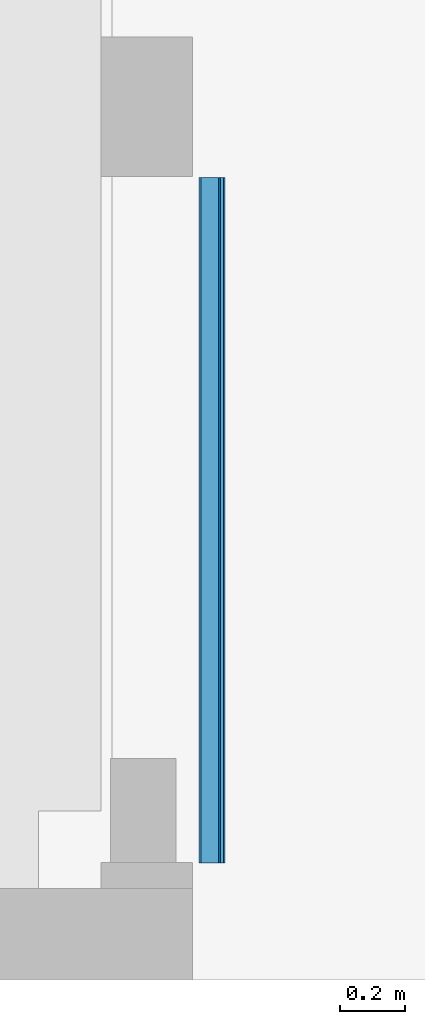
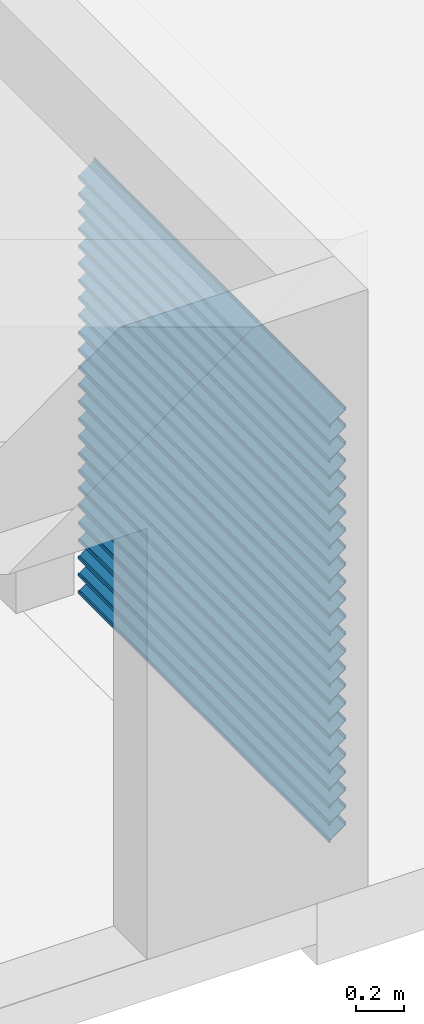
# One storey, part 4 of 22: 1 wall.
"""IFC2X3 building model written with IfcOpenShell, lengths in millimetres."""

from ifc_helpers import new_model, entity, si_unit, converted_unit, derived_unit, direction, frame, origin, place, context, subcontext, project, spatial, faceted_brep, material, type_object, element, save


model = new_model("IFC2X3")

# Units and contexts
model_context = context("Model", 3, precision=0.01, world=origin(), true_north=direction((6.123031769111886e-17, 1.0)))
body_context = subcontext(model_context, "Body", "Model", "MODEL_VIEW")
ifc_project = project(units=[si_unit("LENGTHUNIT", "METRE", prefix="MILLI"), si_unit("AREAUNIT", "SQUARE_METRE"), si_unit("VOLUMEUNIT", "CUBIC_METRE"), converted_unit("PLANEANGLEUNIT", "DEGREE", entity("IfcRatioMeasure", 0.017453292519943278), si_unit("PLANEANGLEUNIT", "RADIAN"), dimensions=[0, 0, 0, 0, 0, 0, 0]), si_unit("MASSUNIT", "GRAM", prefix="KILO"), derived_unit("MASSDENSITYUNIT", [(si_unit("MASSUNIT", "GRAM", prefix="KILO"), 1), (si_unit("LENGTHUNIT", "METRE"), -3)]), derived_unit("MOMENTOFINERTIAUNIT", [(si_unit("LENGTHUNIT", "METRE"), 4)]), si_unit("TIMEUNIT", "SECOND"), si_unit("FREQUENCYUNIT", "HERTZ"), si_unit("THERMODYNAMICTEMPERATUREUNIT", "DEGREE_CELSIUS"), derived_unit("THERMALTRANSMITTANCEUNIT", [(si_unit("MASSUNIT", "GRAM", prefix="KILO"), 1), (si_unit("THERMODYNAMICTEMPERATUREUNIT", "KELVIN"), -1), (si_unit("TIMEUNIT", "SECOND"), -3)]), derived_unit("VOLUMETRICFLOWRATEUNIT", [(si_unit("LENGTHUNIT", "METRE"), 3), (si_unit("TIMEUNIT", "SECOND"), -1)]), derived_unit("MASSFLOWRATEUNIT", [(si_unit("MASSUNIT", "GRAM", prefix="KILO"), 1), (si_unit("TIMEUNIT", "SECOND"), -1)]), derived_unit("ROTATIONALFREQUENCYUNIT", [(si_unit("TIMEUNIT", "SECOND"), -1)]), si_unit("ELECTRICCURRENTUNIT", "AMPERE"), si_unit("ELECTRICVOLTAGEUNIT", "VOLT"), si_unit("POWERUNIT", "WATT"), si_unit("FORCEUNIT", "NEWTON", prefix="KILO"), si_unit("ILLUMINANCEUNIT", "LUX"), si_unit("LUMINOUSFLUXUNIT", "LUMEN"), si_unit("LUMINOUSINTENSITYUNIT", "CANDELA"), derived_unit("USERDEFINED", [(si_unit("MASSUNIT", "GRAM", prefix="KILO"), -1), (si_unit("LENGTHUNIT", "METRE"), -2), (si_unit("TIMEUNIT", "SECOND"), 3), (si_unit("LUMINOUSFLUXUNIT", "LUMEN"), 1)]), derived_unit("SOUNDPOWERUNIT", [(si_unit("MASSUNIT", "GRAM", prefix="KILO"), 1), (si_unit("LENGTHUNIT", "METRE"), 2), (si_unit("TIMEUNIT", "SECOND"), -3)]), derived_unit("SOUNDPRESSUREUNIT", [(si_unit("MASSUNIT", "GRAM", prefix="KILO"), 1), (si_unit("LENGTHUNIT", "METRE"), -1), (si_unit("TIMEUNIT", "SECOND"), -2)]), derived_unit("LINEARVELOCITYUNIT", [(si_unit("LENGTHUNIT", "METRE"), 1), (si_unit("TIMEUNIT", "SECOND"), -1)]), si_unit("PRESSUREUNIT", "PASCAL"), derived_unit("USERDEFINED", [(si_unit("LENGTHUNIT", "METRE"), -2), (si_unit("MASSUNIT", "GRAM", prefix="KILO"), 1), (si_unit("TIMEUNIT", "SECOND"), -2)]), derived_unit("LINEARFORCEUNIT", [(si_unit("MASSUNIT", "GRAM", prefix="KILO"), 1), (si_unit("LENGTHUNIT", "METRE"), 1), (si_unit("TIMEUNIT", "SECOND"), -2), (si_unit("LENGTHUNIT", "METRE"), -1)]), derived_unit("PLANARFORCEUNIT", [(si_unit("MASSUNIT", "GRAM", prefix="KILO"), 1), (si_unit("LENGTHUNIT", "METRE"), 1), (si_unit("TIMEUNIT", "SECOND"), -2), (si_unit("LENGTHUNIT", "METRE"), -2)])], contexts=[model_context])

# Site, building, storey
site_placement = place(None, origin())
site = spatial("IfcSite", under=ifc_project, at=site_placement, Name="Default", CompositionType="ELEMENT")
building_placement = place(site_placement, origin())
building = spatial("IfcBuilding", under=site, at=building_placement, CompositionType="ELEMENT")
storey_placement = place(building_placement, frame((0.0, 0.0, 3300.0)))
storey = spatial("IfcBuildingStorey", under=building, at=storey_placement, Name="Level 2", CompositionType="ELEMENT", Elevation=3299.99999999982)

# Wall
ifc_material = material(Name="Default Wall")
wall_type = type_object("IfcWallType", Name="Curtain Wall:My Curtain Wall:My Curtain Wall : Curtain Wall:My Curtain Wall", PredefinedType="NOTDEFINED", material=ifc_material)
wall_placement = place(storey_placement, frame((5953.369379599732, -3718.2066840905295, 0.0), z_axis=(0.0, 0.0, 1.0), x_axis=(0.0, 1.0, 0.0)))
element("IfcWall", 1, at=wall_placement, inside=storey, type_object=wall_type, material=ifc_material, Name="Curtain Wall:My Curtain Wall:My Curtain Wall : Curtain Wall:My Curtain Wall:My Curtain Wall:My Curtain Wall : Curtain Wall:My Curtain Wall : Curtain Wall:My Curtain Wall:My Curtain Wall : Curtain Wall:My Curtain Wall", ObjectType="Curtain Wall:My Curtain Wall:My Curtain Wall : Curtain Wall:My Curtain Wall:My Curtain Wall:My Curtain Wall : Curtain Wall:My Curtain Wall : Curtain Wall:My Curtain Wall:My Curtain Wall : Curtain Wall:My Curtain Wall", context=body_context, shape_type="Brep", body=[
    faceted_brep([(2100.0, -75.0, 2111.666666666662), (2100.0, -80.0, 2111.666666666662), (2100.0, -80.0, 2095.402073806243), (2100.0, -6.518628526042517, 2041.7067338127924), (2100.0, -6.518628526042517, 2031.6666666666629), (2100.0, 0.0, 2031.6666666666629), (2100.0, 0.0, 2046.6666666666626), (2100.0, -6.575653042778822, 2046.6666666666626), (2100.0, -75.0, 2096.666666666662), (0.0, -75.0, 2111.666666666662), (0.0, -75.0, 2096.666666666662), (0.0, -6.575653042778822, 2046.6666666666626), (0.0, 0.0, 2046.6666666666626), (0.0, 0.0, 2031.6666666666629), (0.0, -6.518628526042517, 2031.6666666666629), (0.0, -6.518628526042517, 2041.7067338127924), (0.0, -80.0, 2095.402073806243), (0.0, -80.0, 2111.666666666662)], [[[0, 1, 2, 3, 4, 5, 6, 7, 8]], [[9, 10, 11, 12, 13, 14, 15, 16, 17]], [[1, 0, 9, 17]], [[2, 1, 17, 16]], [[3, 2, 16, 15]], [[4, 3, 15, 14]], [[5, 4, 14, 13]], [[6, 5, 13, 12]], [[7, 6, 12, 11]], [[8, 7, 11, 10]], [[0, 8, 10, 9]]]),
    faceted_brep([(2100.0, -75.0, 2023.3333333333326), (2100.0, -80.0, 2023.3333333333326), (2100.0, -80.0, 2007.0687404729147), (2100.0, -6.518628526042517, 1953.373400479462), (2100.0, -6.518628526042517, 1943.3333333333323), (2100.0, 0.0, 1943.3333333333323), (2100.0, 0.0, 1958.3333333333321), (2100.0, -6.575653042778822, 1958.3333333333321), (2100.0, -75.0, 2008.3333333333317), (0.0, -75.0, 2023.3333333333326), (0.0, -75.0, 2008.3333333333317), (0.0, -6.575653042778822, 1958.3333333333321), (0.0, 0.0, 1958.3333333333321), (0.0, 0.0, 1943.3333333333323), (0.0, -6.518628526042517, 1943.3333333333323), (0.0, -6.518628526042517, 1953.373400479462), (0.0, -80.0, 2007.0687404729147), (0.0, -80.0, 2023.3333333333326)], [[[0, 1, 2, 3, 4, 5, 6, 7, 8]], [[9, 10, 11, 12, 13, 14, 15, 16, 17]], [[1, 0, 9, 17]], [[2, 1, 17, 16]], [[3, 2, 16, 15]], [[4, 3, 15, 14]], [[5, 4, 14, 13]], [[6, 5, 13, 12]], [[7, 6, 12, 11]], [[8, 7, 11, 10]], [[0, 8, 10, 9]]]),
    faceted_brep([(2100.0, -75.0, 1935.0), (2100.0, -80.0, 1935.0), (2100.0, -80.0, 1918.735407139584), (2100.0, -6.518628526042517, 1865.0400671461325), (2100.0, -6.518628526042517, 1855.0), (2100.0, 0.0, 1855.0), (2100.0, 0.0, 1870.0), (2100.0, -6.575653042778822, 1870.0), (2100.0, -75.0, 1920.0), (0.0, -75.0, 1935.0), (0.0, -75.0, 1920.0), (0.0, -6.575653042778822, 1870.0), (0.0, 0.0, 1870.0), (0.0, 0.0, 1855.0), (0.0, -6.518628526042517, 1855.0), (0.0, -6.518628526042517, 1865.0400671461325), (0.0, -80.0, 1918.735407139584), (0.0, -80.0, 1935.0)], [[[0, 1, 2, 3, 4, 5, 6, 7, 8]], [[9, 10, 11, 12, 13, 14, 15, 16, 17]], [[1, 0, 9, 17]], [[2, 1, 17, 16]], [[3, 2, 16, 15]], [[4, 3, 15, 14]], [[5, 4, 14, 13]], [[6, 5, 13, 12]], [[7, 6, 12, 11]], [[8, 7, 11, 10]], [[0, 8, 10, 9]]]),
    faceted_brep([(2100.0, -75.0, 1846.6666666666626), (2100.0, -80.0, 1846.6666666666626), (2100.0, -80.0, 1830.4020738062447), (2100.0, -6.518628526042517, 1776.7067338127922), (2100.0, -6.518628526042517, 1766.6666666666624), (2100.0, 0.0, 1766.6666666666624), (2100.0, 0.0, 1781.6666666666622), (2100.0, -6.575653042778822, 1781.6666666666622), (2100.0, -75.0, 1831.6666666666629), (0.0, -75.0, 1846.6666666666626), (0.0, -75.0, 1831.6666666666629), (0.0, -6.575653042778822, 1781.6666666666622), (0.0, 0.0, 1781.6666666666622), (0.0, 0.0, 1766.6666666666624), (0.0, -6.518628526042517, 1766.6666666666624), (0.0, -6.518628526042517, 1776.7067338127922), (0.0, -80.0, 1830.4020738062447), (0.0, -80.0, 1846.6666666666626)], [[[0, 1, 2, 3, 4, 5, 6, 7, 8]], [[9, 10, 11, 12, 13, 14, 15, 16, 17]], [[1, 0, 9, 17]], [[2, 1, 17, 16]], [[3, 2, 16, 15]], [[4, 3, 15, 14]], [[5, 4, 14, 13]], [[6, 5, 13, 12]], [[7, 6, 12, 11]], [[8, 7, 11, 10]], [[0, 8, 10, 9]]]),
    faceted_brep([(2100.0, -75.0, 1758.3333333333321), (2100.0, -80.0, 1758.3333333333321), (2100.0, -80.0, 1742.0687404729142), (2100.0, -6.518628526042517, 1688.3734004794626), (2100.0, -6.518628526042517, 1678.333333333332), (2100.0, 0.0, 1678.333333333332), (2100.0, 0.0, 1693.3333333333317), (2100.0, -6.575653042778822, 1693.3333333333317), (2100.0, -75.0, 1743.3333333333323), (0.0, -75.0, 1758.3333333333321), (0.0, -75.0, 1743.3333333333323), (0.0, -6.575653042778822, 1693.3333333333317), (0.0, 0.0, 1693.3333333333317), (0.0, 0.0, 1678.333333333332), (0.0, -6.518628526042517, 1678.333333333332), (0.0, -6.518628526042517, 1688.3734004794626), (0.0, -80.0, 1742.0687404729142), (0.0, -80.0, 1758.3333333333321)], [[[0, 1, 2, 3, 4, 5, 6, 7, 8]], [[9, 10, 11, 12, 13, 14, 15, 16, 17]], [[1, 0, 9, 17]], [[2, 1, 17, 16]], [[3, 2, 16, 15]], [[4, 3, 15, 14]], [[5, 4, 14, 13]], [[6, 5, 13, 12]], [[7, 6, 12, 11]], [[8, 7, 11, 10]], [[0, 8, 10, 9]]]),
    faceted_brep([(2100.0, -75.0, 1670.0), (2100.0, -80.0, 1670.0), (2100.0, -80.0, 1653.7354071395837), (2100.0, -6.518628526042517, 1600.040067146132), (2100.0, -6.518628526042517, 1590.0), (2100.0, 0.0, 1590.0), (2100.0, 0.0, 1605.0), (2100.0, -6.575653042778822, 1605.0), (2100.0, -75.0, 1655.0), (0.0, -75.0, 1670.0), (0.0, -75.0, 1655.0), (0.0, -6.575653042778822, 1605.0), (0.0, 0.0, 1605.0), (0.0, 0.0, 1590.0), (0.0, -6.518628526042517, 1590.0), (0.0, -6.518628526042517, 1600.040067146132), (0.0, -80.0, 1653.7354071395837), (0.0, -80.0, 1670.0)], [[[0, 1, 2, 3, 4, 5, 6, 7, 8]], [[9, 10, 11, 12, 13, 14, 15, 16, 17]], [[1, 0, 9, 17]], [[2, 1, 17, 16]], [[3, 2, 16, 15]], [[4, 3, 15, 14]], [[5, 4, 14, 13]], [[6, 5, 13, 12]], [[7, 6, 12, 11]], [[8, 7, 11, 10]], [[0, 8, 10, 9]]]),
    faceted_brep([(2100.0, -75.0, 1581.6666666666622), (2100.0, -80.0, 1581.6666666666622), (2100.0, -80.0, 1565.4020738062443), (2100.0, -6.518628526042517, 1511.706733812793), (2100.0, -6.518628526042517, 1501.666666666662), (2100.0, 0.0, 1501.666666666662), (2100.0, 0.0, 1516.6666666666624), (2100.0, -6.575653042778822, 1516.6666666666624), (2100.0, -75.0, 1566.6666666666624), (0.0, -75.0, 1581.6666666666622), (0.0, -75.0, 1566.6666666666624), (0.0, -6.575653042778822, 1516.6666666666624), (0.0, 0.0, 1516.6666666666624), (0.0, 0.0, 1501.666666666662), (0.0, -6.518628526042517, 1501.666666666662), (0.0, -6.518628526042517, 1511.706733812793), (0.0, -80.0, 1565.4020738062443), (0.0, -80.0, 1581.6666666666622)], [[[0, 1, 2, 3, 4, 5, 6, 7, 8]], [[9, 10, 11, 12, 13, 14, 15, 16, 17]], [[1, 0, 9, 17]], [[2, 1, 17, 16]], [[3, 2, 16, 15]], [[4, 3, 15, 14]], [[5, 4, 14, 13]], [[6, 5, 13, 12]], [[7, 6, 12, 11]], [[8, 7, 11, 10]], [[0, 8, 10, 9]]]),
    faceted_brep([(2100.0, -75.0, 1493.3333333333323), (2100.0, -80.0, 1493.3333333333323), (2100.0, -80.0, 1477.0687404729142), (2100.0, -6.518628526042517, 1423.3734004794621), (2100.0, -6.518628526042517, 1413.3333333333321), (2100.0, 0.0, 1413.3333333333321), (2100.0, 0.0, 1428.333333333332), (2100.0, -6.575653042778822, 1428.333333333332), (2100.0, -75.0, 1478.333333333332), (0.0, -75.0, 1493.3333333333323), (0.0, -75.0, 1478.333333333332), (0.0, -6.575653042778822, 1428.333333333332), (0.0, 0.0, 1428.333333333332), (0.0, 0.0, 1413.3333333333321), (0.0, -6.518628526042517, 1413.3333333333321), (0.0, -6.518628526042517, 1423.3734004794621), (0.0, -80.0, 1477.0687404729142), (0.0, -80.0, 1493.3333333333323)], [[[0, 1, 2, 3, 4, 5, 6, 7, 8]], [[9, 10, 11, 12, 13, 14, 15, 16, 17]], [[1, 0, 9, 17]], [[2, 1, 17, 16]], [[3, 2, 16, 15]], [[4, 3, 15, 14]], [[5, 4, 14, 13]], [[6, 5, 13, 12]], [[7, 6, 12, 11]], [[8, 7, 11, 10]], [[0, 8, 10, 9]]]),
    faceted_brep([(2100.0, -75.0, 1405.0), (2100.0, -80.0, 1405.0), (2100.0, -80.0, 1388.7354071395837), (2100.0, -6.518628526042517, 1335.040067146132), (2100.0, -6.518628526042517, 1325.0), (2100.0, 0.0, 1325.0), (2100.0, 0.0, 1340.0), (2100.0, -6.575653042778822, 1340.0), (2100.0, -75.0, 1390.0), (0.0, -75.0, 1405.0), (0.0, -75.0, 1390.0), (0.0, -6.575653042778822, 1340.0), (0.0, 0.0, 1340.0), (0.0, 0.0, 1325.0), (0.0, -6.518628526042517, 1325.0), (0.0, -6.518628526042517, 1335.040067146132), (0.0, -80.0, 1388.7354071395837), (0.0, -80.0, 1405.0)], [[[0, 1, 2, 3, 4, 5, 6, 7, 8]], [[9, 10, 11, 12, 13, 14, 15, 16, 17]], [[1, 0, 9, 17]], [[2, 1, 17, 16]], [[3, 2, 16, 15]], [[4, 3, 15, 14]], [[5, 4, 14, 13]], [[6, 5, 13, 12]], [[7, 6, 12, 11]], [[8, 7, 11, 10]], [[0, 8, 10, 9]]]),
    faceted_brep([(2100.0, -75.0, 1316.6666666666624), (2100.0, -80.0, 1316.6666666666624), (2100.0, -80.0, 1300.4020738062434), (2100.0, -6.518628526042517, 1246.7067338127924), (2100.0, -6.518628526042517, 1236.6666666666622), (2100.0, 0.0, 1236.6666666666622), (2100.0, 0.0, 1251.6666666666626), (2100.0, -6.575653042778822, 1251.6666666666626), (2100.0, -75.0, 1301.6666666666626), (0.0, -75.0, 1316.6666666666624), (0.0, -75.0, 1301.6666666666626), (0.0, -6.575653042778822, 1251.6666666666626), (0.0, 0.0, 1251.6666666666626), (0.0, 0.0, 1236.6666666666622), (0.0, -6.518628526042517, 1236.6666666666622), (0.0, -6.518628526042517, 1246.7067338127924), (0.0, -80.0, 1300.4020738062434), (0.0, -80.0, 1316.6666666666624)], [[[0, 1, 2, 3, 4, 5, 6, 7, 8]], [[9, 10, 11, 12, 13, 14, 15, 16, 17]], [[1, 0, 9, 17]], [[2, 1, 17, 16]], [[3, 2, 16, 15]], [[4, 3, 15, 14]], [[5, 4, 14, 13]], [[6, 5, 13, 12]], [[7, 6, 12, 11]], [[8, 7, 11, 10]], [[0, 8, 10, 9]]]),
    faceted_brep([(2100.0, -75.0, 1228.333333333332), (2100.0, -80.0, 1228.333333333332), (2100.0, -80.0, 1212.068740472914), (2100.0, -6.518628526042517, 1158.3734004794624), (2100.0, -6.518628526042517, 1148.3333333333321), (2100.0, 0.0, 1148.3333333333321), (2100.0, 0.0, 1163.333333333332), (2100.0, -6.575653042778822, 1163.333333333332), (2100.0, -75.0, 1213.333333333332), (0.0, -75.0, 1228.333333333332), (0.0, -75.0, 1213.333333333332), (0.0, -6.575653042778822, 1163.333333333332), (0.0, 0.0, 1163.333333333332), (0.0, 0.0, 1148.3333333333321), (0.0, -6.518628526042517, 1148.3333333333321), (0.0, -6.518628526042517, 1158.3734004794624), (0.0, -80.0, 1212.068740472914), (0.0, -80.0, 1228.333333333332)], [[[0, 1, 2, 3, 4, 5, 6, 7, 8]], [[9, 10, 11, 12, 13, 14, 15, 16, 17]], [[1, 0, 9, 17]], [[2, 1, 17, 16]], [[3, 2, 16, 15]], [[4, 3, 15, 14]], [[5, 4, 14, 13]], [[6, 5, 13, 12]], [[7, 6, 12, 11]], [[8, 7, 11, 10]], [[0, 8, 10, 9]]]),
    faceted_brep([(2100.0, -75.0, 1140.0), (2100.0, -80.0, 1140.0), (2100.0, -80.0, 1123.735407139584), (2100.0, -6.518628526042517, 1070.0400671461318), (2100.0, -6.518628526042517, 1060.0), (2100.0, 0.0, 1060.0), (2100.0, 0.0, 1075.0), (2100.0, -6.575653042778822, 1075.0), (2100.0, -75.0, 1125.0), (0.0, -75.0, 1140.0), (0.0, -75.0, 1125.0), (0.0, -6.575653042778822, 1075.0), (0.0, 0.0, 1075.0), (0.0, 0.0, 1060.0), (0.0, -6.518628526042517, 1060.0), (0.0, -6.518628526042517, 1070.0400671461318), (0.0, -80.0, 1123.735407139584), (0.0, -80.0, 1140.0)], [[[0, 1, 2, 3, 4, 5, 6, 7, 8]], [[9, 10, 11, 12, 13, 14, 15, 16, 17]], [[1, 0, 9, 17]], [[2, 1, 17, 16]], [[3, 2, 16, 15]], [[4, 3, 15, 14]], [[5, 4, 14, 13]], [[6, 5, 13, 12]], [[7, 6, 12, 11]], [[8, 7, 11, 10]], [[0, 8, 10, 9]]]),
    faceted_brep([(2100.0, -75.0, 1051.6666666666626), (2100.0, -80.0, 1051.6666666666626), (2100.0, -80.0, 1035.4020738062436), (2100.0, -6.518628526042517, 981.7067338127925), (2100.0, -6.518628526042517, 971.6666666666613), (2100.0, 0.0, 971.6666666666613), (2100.0, 0.0, 986.6666666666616), (2100.0, -6.575653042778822, 986.6666666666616), (2100.0, -75.0, 1036.6666666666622), (0.0, -75.0, 1051.6666666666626), (0.0, -75.0, 1036.6666666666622), (0.0, -6.575653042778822, 986.6666666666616), (0.0, 0.0, 986.6666666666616), (0.0, 0.0, 971.6666666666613), (0.0, -6.518628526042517, 971.6666666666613), (0.0, -6.518628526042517, 981.7067338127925), (0.0, -80.0, 1035.4020738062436), (0.0, -80.0, 1051.6666666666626)], [[[0, 1, 2, 3, 4, 5, 6, 7, 8]], [[9, 10, 11, 12, 13, 14, 15, 16, 17]], [[1, 0, 9, 17]], [[2, 1, 17, 16]], [[3, 2, 16, 15]], [[4, 3, 15, 14]], [[5, 4, 14, 13]], [[6, 5, 13, 12]], [[7, 6, 12, 11]], [[8, 7, 11, 10]], [[0, 8, 10, 9]]]),
    faceted_brep([(2100.0, -75.0, 963.333333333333), (2100.0, -80.0, 963.333333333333), (2100.0, -80.0, 947.0687404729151), (2100.0, -6.518628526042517, 893.373400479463), (2100.0, -6.518628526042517, 883.3333333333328), (2100.0, 0.0, 883.3333333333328), (2100.0, 0.0, 898.3333333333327), (2100.0, -6.575653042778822, 898.3333333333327), (2100.0, -75.0, 948.3333333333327), (0.0, -75.0, 963.333333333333), (0.0, -75.0, 948.3333333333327), (0.0, -6.575653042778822, 898.3333333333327), (0.0, 0.0, 898.3333333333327), (0.0, 0.0, 883.3333333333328), (0.0, -6.518628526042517, 883.3333333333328), (0.0, -6.518628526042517, 893.373400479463), (0.0, -80.0, 947.0687404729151), (0.0, -80.0, 963.333333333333)], [[[0, 1, 2, 3, 4, 5, 6, 7, 8]], [[9, 10, 11, 12, 13, 14, 15, 16, 17]], [[1, 0, 9, 17]], [[2, 1, 17, 16]], [[3, 2, 16, 15]], [[4, 3, 15, 14]], [[5, 4, 14, 13]], [[6, 5, 13, 12]], [[7, 6, 12, 11]], [[8, 7, 11, 10]], [[0, 8, 10, 9]]]),
    faceted_brep([(2100.0, -75.0, 875.0), (2100.0, -80.0, 875.0), (2100.0, -80.0, 858.7354071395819), (2100.0, -6.518628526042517, 805.0400671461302), (2100.0, -6.518628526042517, 795.0), (2100.0, 0.0, 795.0), (2100.0, 0.0, 810.0), (2100.0, -6.575653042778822, 810.0), (2100.0, -75.0, 860.0), (0.0, -75.0, 875.0), (0.0, -75.0, 860.0), (0.0, -6.575653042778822, 810.0), (0.0, 0.0, 810.0), (0.0, 0.0, 795.0), (0.0, -6.518628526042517, 795.0), (0.0, -6.518628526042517, 805.0400671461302), (0.0, -80.0, 858.7354071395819), (0.0, -80.0, 875.0)], [[[0, 1, 2, 3, 4, 5, 6, 7, 8]], [[9, 10, 11, 12, 13, 14, 15, 16, 17]], [[1, 0, 9, 17]], [[2, 1, 17, 16]], [[3, 2, 16, 15]], [[4, 3, 15, 14]], [[5, 4, 14, 13]], [[6, 5, 13, 12]], [[7, 6, 12, 11]], [[8, 7, 11, 10]], [[0, 8, 10, 9]]]),
    faceted_brep([(2100.0, -75.0, 786.666666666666), (2100.0, -80.0, 786.666666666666), (2100.0, -80.0, 770.4020738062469), (2100.0, -6.518628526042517, 716.706733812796), (2100.0, -6.518628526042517, 706.6666666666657), (2100.0, 0.0, 706.6666666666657), (2100.0, 0.0, 721.6666666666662), (2100.0, -6.575653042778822, 721.6666666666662), (2100.0, -75.0, 771.6666666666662), (0.0, -75.0, 786.666666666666), (0.0, -75.0, 771.6666666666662), (0.0, -6.575653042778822, 721.6666666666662), (0.0, 0.0, 721.6666666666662), (0.0, 0.0, 706.6666666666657), (0.0, -6.518628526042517, 706.6666666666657), (0.0, -6.518628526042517, 716.706733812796), (0.0, -80.0, 770.4020738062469), (0.0, -80.0, 786.666666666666)], [[[0, 1, 2, 3, 4, 5, 6, 7, 8]], [[9, 10, 11, 12, 13, 14, 15, 16, 17]], [[1, 0, 9, 17]], [[2, 1, 17, 16]], [[3, 2, 16, 15]], [[4, 3, 15, 14]], [[5, 4, 14, 13]], [[6, 5, 13, 12]], [[7, 6, 12, 11]], [[8, 7, 11, 10]], [[0, 8, 10, 9]]]),
    faceted_brep([(2100.0, -75.0, 698.3333333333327), (2100.0, -80.0, 698.3333333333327), (2100.0, -80.0, 682.0687404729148), (2100.0, -6.518628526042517, 628.3734004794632), (2100.0, -6.518628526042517, 618.333333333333), (2100.0, 0.0, 618.333333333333), (2100.0, 0.0, 633.3333333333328), (2100.0, -6.575653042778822, 633.3333333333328), (2100.0, -75.0, 683.3333333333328), (0.0, -75.0, 698.3333333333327), (0.0, -75.0, 683.3333333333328), (0.0, -6.575653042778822, 633.3333333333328), (0.0, 0.0, 633.3333333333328), (0.0, 0.0, 618.333333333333), (0.0, -6.518628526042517, 618.333333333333), (0.0, -6.518628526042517, 628.3734004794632), (0.0, -80.0, 682.0687404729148), (0.0, -80.0, 698.3333333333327)], [[[0, 1, 2, 3, 4, 5, 6, 7, 8]], [[9, 10, 11, 12, 13, 14, 15, 16, 17]], [[1, 0, 9, 17]], [[2, 1, 17, 16]], [[3, 2, 16, 15]], [[4, 3, 15, 14]], [[5, 4, 14, 13]], [[6, 5, 13, 12]], [[7, 6, 12, 11]], [[8, 7, 11, 10]], [[0, 8, 10, 9]]]),
    faceted_brep([(2100.0, -75.0, 610.0), (2100.0, -80.0, 610.0), (2100.0, -80.0, 593.735407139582), (2100.0, -6.518628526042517, 540.0400671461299), (2100.0, -6.518628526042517, 530.0), (2100.0, 0.0, 530.0), (2100.0, 0.0, 545.0), (2100.0, -6.575653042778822, 545.0), (2100.0, -75.0, 595.0), (0.0, -75.0, 610.0), (0.0, -75.0, 595.0), (0.0, -6.575653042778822, 545.0), (0.0, 0.0, 545.0), (0.0, 0.0, 530.0), (0.0, -6.518628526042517, 530.0), (0.0, -6.518628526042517, 540.0400671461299), (0.0, -80.0, 593.735407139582), (0.0, -80.0, 610.0)], [[[0, 1, 2, 3, 4, 5, 6, 7, 8]], [[9, 10, 11, 12, 13, 14, 15, 16, 17]], [[1, 0, 9, 17]], [[2, 1, 17, 16]], [[3, 2, 16, 15]], [[4, 3, 15, 14]], [[5, 4, 14, 13]], [[6, 5, 13, 12]], [[7, 6, 12, 11]], [[8, 7, 11, 10]], [[0, 8, 10, 9]]]),
    faceted_brep([(2100.0, -75.0, 521.6666666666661), (2100.0, -80.0, 521.6666666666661), (2100.0, -80.0, 505.4020738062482), (2100.0, -6.518628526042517, 451.7067338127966), (2100.0, -6.518628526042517, 441.6666666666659), (2100.0, 0.0, 441.6666666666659), (2100.0, 0.0, 456.6666666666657), (2100.0, -6.575653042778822, 456.6666666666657), (2100.0, -75.0, 506.6666666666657), (0.0, -75.0, 521.6666666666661), (0.0, -75.0, 506.6666666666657), (0.0, -6.575653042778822, 456.6666666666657), (0.0, 0.0, 456.6666666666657), (0.0, 0.0, 441.6666666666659), (0.0, -6.518628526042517, 441.6666666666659), (0.0, -6.518628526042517, 451.7067338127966), (0.0, -80.0, 505.4020738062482), (0.0, -80.0, 521.6666666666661)], [[[0, 1, 2, 3, 4, 5, 6, 7, 8]], [[9, 10, 11, 12, 13, 14, 15, 16, 17]], [[1, 0, 9, 17]], [[2, 1, 17, 16]], [[3, 2, 16, 15]], [[4, 3, 15, 14]], [[5, 4, 14, 13]], [[6, 5, 13, 12]], [[7, 6, 12, 11]], [[8, 7, 11, 10]], [[0, 8, 10, 9]]]),
    faceted_brep([(2100.0, -75.0, 433.3333333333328), (2100.0, -80.0, 433.3333333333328), (2100.0, -80.0, 417.0687404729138), (2100.0, -6.518628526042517, 363.3734004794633), (2100.0, -6.518628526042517, 353.33333333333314), (2100.0, 0.0, 353.33333333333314), (2100.0, 0.0, 368.333333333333), (2100.0, -6.575653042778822, 368.333333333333), (2100.0, -75.0, 418.333333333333), (0.0, -75.0, 433.3333333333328), (0.0, -75.0, 418.333333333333), (0.0, -6.575653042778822, 368.333333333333), (0.0, 0.0, 368.333333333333), (0.0, 0.0, 353.33333333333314), (0.0, -6.518628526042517, 353.33333333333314), (0.0, -6.518628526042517, 363.3734004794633), (0.0, -80.0, 417.0687404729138), (0.0, -80.0, 433.3333333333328)], [[[0, 1, 2, 3, 4, 5, 6, 7, 8]], [[9, 10, 11, 12, 13, 14, 15, 16, 17]], [[1, 0, 9, 17]], [[2, 1, 17, 16]], [[3, 2, 16, 15]], [[4, 3, 15, 14]], [[5, 4, 14, 13]], [[6, 5, 13, 12]], [[7, 6, 12, 11]], [[8, 7, 11, 10]], [[0, 8, 10, 9]]]),
    faceted_brep([(2100.0, -75.0, 345.0), (2100.0, -80.0, 345.0), (2100.0, -80.0, 328.73540713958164), (2100.0, -6.518628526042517, 275.0400671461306), (2100.0, -6.518628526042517, 265.0), (2100.0, 0.0, 265.0), (2100.0, 0.0, 280.0), (2100.0, -6.575653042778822, 280.0), (2100.0, -75.0, 330.0), (0.0, -75.0, 345.0), (0.0, -75.0, 330.0), (0.0, -6.575653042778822, 280.0), (0.0, 0.0, 280.0), (0.0, 0.0, 265.0), (0.0, -6.518628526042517, 265.0), (0.0, -6.518628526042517, 275.0400671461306), (0.0, -80.0, 328.73540713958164), (0.0, -80.0, 345.0)], [[[0, 1, 2, 3, 4, 5, 6, 7, 8]], [[9, 10, 11, 12, 13, 14, 15, 16, 17]], [[1, 0, 9, 17]], [[2, 1, 17, 16]], [[3, 2, 16, 15]], [[4, 3, 15, 14]], [[5, 4, 14, 13]], [[6, 5, 13, 12]], [[7, 6, 12, 11]], [[8, 7, 11, 10]], [[0, 8, 10, 9]]]),
    faceted_brep([(2100.0, -75.0, 256.6666666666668), (2100.0, -80.0, 256.6666666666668), (2100.0, -80.0, 240.40207380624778), (2100.0, -6.518628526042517, 186.7067338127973), (2100.0, -6.518628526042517, 176.66666666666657), (2100.0, 0.0, 176.66666666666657), (2100.0, 0.0, 191.66666666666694), (2100.0, -6.575653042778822, 191.66666666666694), (2100.0, -75.0, 241.66666666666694), (0.0, -75.0, 256.6666666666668), (0.0, -75.0, 241.66666666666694), (0.0, -6.575653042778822, 191.66666666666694), (0.0, 0.0, 191.66666666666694), (0.0, 0.0, 176.66666666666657), (0.0, -6.518628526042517, 176.66666666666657), (0.0, -6.518628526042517, 186.7067338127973), (0.0, -80.0, 240.40207380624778), (0.0, -80.0, 256.6666666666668)], [[[0, 1, 2, 3, 4, 5, 6, 7, 8]], [[9, 10, 11, 12, 13, 14, 15, 16, 17]], [[1, 0, 9, 17]], [[2, 1, 17, 16]], [[3, 2, 16, 15]], [[4, 3, 15, 14]], [[5, 4, 14, 13]], [[6, 5, 13, 12]], [[7, 6, 12, 11]], [[8, 7, 11, 10]], [[0, 8, 10, 9]]]),
    faceted_brep([(2100.0, -75.0, 168.33333333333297), (2100.0, -80.0, 168.33333333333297), (2100.0, -80.0, 152.0687404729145), (2100.0, -6.518628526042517, 98.37340047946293), (2100.0, -6.518628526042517, 88.3333333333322), (2100.0, 0.0, 88.3333333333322), (2100.0, 0.0, 103.33333333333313), (2100.0, -6.575653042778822, 103.33333333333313), (2100.0, -75.0, 153.33333333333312), (0.0, -75.0, 168.33333333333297), (0.0, -75.0, 153.33333333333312), (0.0, -6.575653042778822, 103.33333333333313), (0.0, 0.0, 103.33333333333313), (0.0, 0.0, 88.3333333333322), (0.0, -6.518628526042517, 88.3333333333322), (0.0, -6.518628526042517, 98.37340047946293), (0.0, -80.0, 152.0687404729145), (0.0, -80.0, 168.33333333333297)], [[[0, 1, 2, 3, 4, 5, 6, 7, 8]], [[9, 10, 11, 12, 13, 14, 15, 16, 17]], [[1, 0, 9, 17]], [[2, 1, 17, 16]], [[3, 2, 16, 15]], [[4, 3, 15, 14]], [[5, 4, 14, 13]], [[6, 5, 13, 12]], [[7, 6, 12, 11]], [[8, 7, 11, 10]], [[0, 8, 10, 9]]]),
    faceted_brep([(2100.0, -75.0, 2200.0), (2100.0, -80.0, 2200.0), (2100.0, -80.0, 2183.7354071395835), (2100.0, -6.518628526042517, 2130.040067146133), (2100.0, -6.518628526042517, 2120.0), (2100.0, 0.0, 2120.0), (2100.0, 0.0, 2135.0), (2100.0, -6.575653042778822, 2135.0), (2100.0, -75.0, 2185.0), (0.0, -75.0, 2200.0), (0.0, -75.0, 2185.0), (0.0, -6.575653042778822, 2135.0), (0.0, 0.0, 2135.0), (0.0, 0.0, 2120.0), (0.0, -6.518628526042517, 2120.0), (0.0, -6.518628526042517, 2130.040067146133), (0.0, -80.0, 2183.7354071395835), (0.0, -80.0, 2200.0)], [[[0, 1, 2, 3, 4, 5, 6, 7, 8]], [[9, 10, 11, 12, 13, 14, 15, 16, 17]], [[1, 0, 9, 17]], [[2, 1, 17, 16]], [[3, 2, 16, 15]], [[4, 3, 15, 14]], [[5, 4, 14, 13]], [[6, 5, 13, 12]], [[7, 6, 12, 11]], [[8, 7, 11, 10]], [[0, 8, 10, 9]]]),
    faceted_brep([(2100.0, -75.0, 80.0), (2100.0, -80.0, 80.0), (2100.0, -80.0, 63.73540713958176), (2100.0, -6.518628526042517, 10.04006714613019), (2100.0, -6.518628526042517, 0.0), (2100.0, 0.0, 0.0), (2100.0, 0.0, 15.0), (2100.0, -6.575653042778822, 15.0), (2100.0, -75.0, 65.0), (0.0, -75.0, 80.0), (0.0, -75.0, 65.0), (0.0, -6.575653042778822, 15.0), (0.0, 0.0, 15.0), (0.0, 0.0, 0.0), (0.0, -6.518628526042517, 0.0), (0.0, -6.518628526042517, 10.04006714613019), (0.0, -80.0, 63.73540713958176), (0.0, -80.0, 80.0)], [[[0, 1, 2, 3, 4, 5, 6, 7, 8]], [[9, 10, 11, 12, 13, 14, 15, 16, 17]], [[1, 0, 9, 17]], [[2, 1, 17, 16]], [[3, 2, 16, 15]], [[4, 3, 15, 14]], [[5, 4, 14, 13]], [[6, 5, 13, 12]], [[7, 6, 12, 11]], [[8, 7, 11, 10]], [[0, 8, 10, 9]]]),
])

save(model, "model.ifc")
